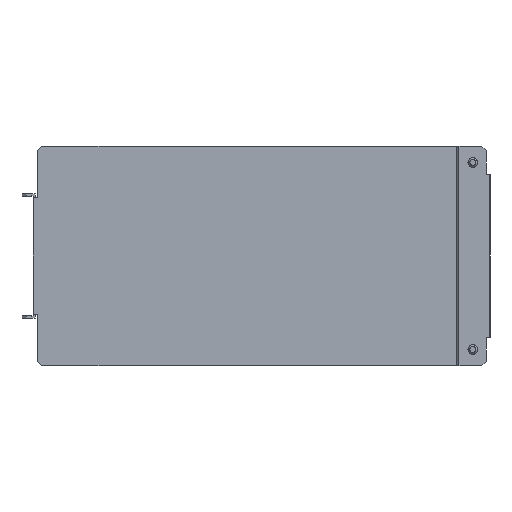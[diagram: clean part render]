
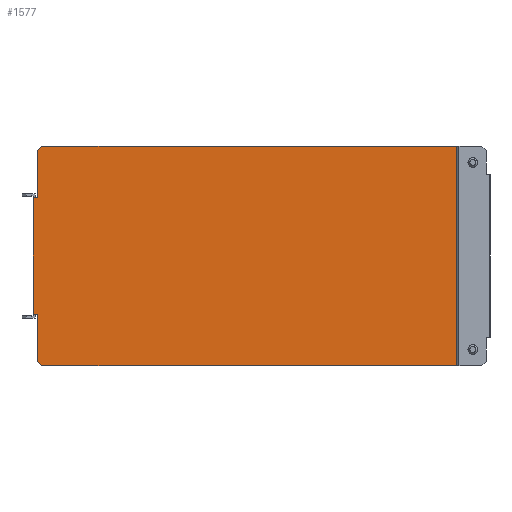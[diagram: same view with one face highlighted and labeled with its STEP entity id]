
A CAD part, front view. The second image highlights one B-rep face of the part: STEP entity #1577.
In plain terms, the highlighted planar face has unit normal (0, -1, 0).
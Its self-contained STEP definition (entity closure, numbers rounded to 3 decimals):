
#5 = CARTESIAN_POINT ( 'NONE',  ( -20.511, 1.5, -73.5 ) ) ;
#66 = CARTESIAN_POINT ( 'NONE',  ( -300.5, 1.5, 73.5 ) ) ;
#154 = DIRECTION ( 'NONE',  ( 1., 0., 0. ) ) ;
#162 = VERTEX_POINT ( 'NONE', #1483 ) ;
#177 = ORIENTED_EDGE ( 'NONE', *, *, #1281, .T. ) ;
#201 = EDGE_CURVE ( 'NONE', #2790, #1537, #1585, .T. ) ;
#216 = ORIENTED_EDGE ( 'NONE', *, *, #1597, .T. ) ;
#222 = ORIENTED_EDGE ( 'NONE', *, *, #2566, .F. ) ;
#227 = CARTESIAN_POINT ( 'NONE',  ( 0., 1.5, 73.5 ) ) ;
#268 = ORIENTED_EDGE ( 'NONE', *, *, #417, .T. ) ;
#319 = LINE ( 'NONE', #2994, #3381 ) ;
#403 = VECTOR ( 'NONE', #2015, 1000. ) ;
#417 = EDGE_CURVE ( 'NONE', #637, #3203, #1031, .T. ) ;
#517 = CARTESIAN_POINT ( 'NONE',  ( 0., 1.5, 0. ) ) ;
#595 = DIRECTION ( 'NONE',  ( 0., 0., 1. ) ) ;
#606 = DIRECTION ( 'NONE',  ( 0., 0., 1. ) ) ;
#637 = VERTEX_POINT ( 'NONE', #2460 ) ;
#662 = DIRECTION ( 'NONE',  ( 0.707, 0., -0.707 ) ) ;
#716 = VECTOR ( 'NONE', #3970, 1000. ) ;
#735 = CARTESIAN_POINT ( 'NONE',  ( -300.5, 1.5, -39. ) ) ;
#812 = CARTESIAN_POINT ( 'NONE',  ( -300.5, 1.5, 39. ) ) ;
#930 = ORIENTED_EDGE ( 'NONE', *, *, #3087, .T. ) ;
#1011 = LINE ( 'NONE', #2316, #1542 ) ;
#1031 = LINE ( 'NONE', #2337, #403 ) ;
#1138 = LINE ( 'NONE', #1824, #3621 ) ;
#1263 = LINE ( 'NONE', #3516, #3713 ) ;
#1281 = EDGE_CURVE ( 'NONE', #2433, #1385, #2294, .T. ) ;
#1290 = CARTESIAN_POINT ( 'NONE',  ( -303.3, 1.5, 39. ) ) ;
#1294 = CARTESIAN_POINT ( 'NONE',  ( -297.5, 1.5, -73.5 ) ) ;
#1334 = CARTESIAN_POINT ( 'NONE',  ( -20.511, 1.5, 0. ) ) ;
#1341 = ORIENTED_EDGE ( 'NONE', *, *, #2614, .F. ) ;
#1360 = VERTEX_POINT ( 'NONE', #2874 ) ;
#1363 = EDGE_CURVE ( 'NONE', #2988, #162, #4162, .T. ) ;
#1366 = DIRECTION ( 'NONE',  ( 0., 0., -1. ) ) ;
#1385 = VERTEX_POINT ( 'NONE', #1294 ) ;
#1483 = CARTESIAN_POINT ( 'NONE',  ( -20.511, 1.5, 73.5 ) ) ;
#1494 = EDGE_CURVE ( 'NONE', #1385, #2931, #3002, .T. ) ;
#1525 = CARTESIAN_POINT ( 'NONE',  ( 0., 1.5, -39. ) ) ;
#1529 = VERTEX_POINT ( 'NONE', #735 ) ;
#1537 = VERTEX_POINT ( 'NONE', #2045 ) ;
#1542 = VECTOR ( 'NONE', #2930, 1000. ) ;
#1577 = ADVANCED_FACE ( 'NONE', ( #1841 ), #3717, .T. ) ;
#1582 = CARTESIAN_POINT ( 'NONE',  ( -20.925, 1.5, -73.5 ) ) ;
#1585 = LINE ( 'NONE', #1858, #3237 ) ;
#1597 = EDGE_CURVE ( 'NONE', #4084, #1529, #1138, .T. ) ;
#1607 = VECTOR ( 'NONE', #1949, 1000. ) ;
#1676 = CARTESIAN_POINT ( 'NONE',  ( -300.5, 1.5, -73.5 ) ) ;
#1694 = CARTESIAN_POINT ( 'NONE',  ( -300.8, 1.5, 39. ) ) ;
#1708 = ORIENTED_EDGE ( 'NONE', *, *, #2335, .T. ) ;
#1710 = CARTESIAN_POINT ( 'NONE',  ( -300.8, 1.5, 39. ) ) ;
#1724 = VECTOR ( 'NONE', #1765, 1000. ) ;
#1765 = DIRECTION ( 'NONE',  ( 1., 0., 0. ) ) ;
#1824 = CARTESIAN_POINT ( 'NONE',  ( -300.8, 1.5, -39. ) ) ;
#1839 = VERTEX_POINT ( 'NONE', #1694 ) ;
#1841 = FACE_OUTER_BOUND ( 'NONE', #2468, .T. ) ;
#1853 = CARTESIAN_POINT ( 'NONE',  ( -185.5, 1.5, 185.5 ) ) ;
#1858 = CARTESIAN_POINT ( 'NONE',  ( 0., 1.5, 73.5 ) ) ;
#1875 = LINE ( 'NONE', #227, #1607 ) ;
#1949 = DIRECTION ( 'NONE',  ( 1., 0., 0. ) ) ;
#1975 = DIRECTION ( 'NONE',  ( 1., 0., 0. ) ) ;
#2015 = DIRECTION ( 'NONE',  ( 0., 0., -1. ) ) ;
#2016 = VECTOR ( 'NONE', #2573, 1000. ) ;
#2045 = CARTESIAN_POINT ( 'NONE',  ( -297.5, 1.5, 73.5 ) ) ;
#2154 = ORIENTED_EDGE ( 'NONE', *, *, #2362, .F. ) ;
#2200 = ORIENTED_EDGE ( 'NONE', *, *, #2590, .T. ) ;
#2294 = LINE ( 'NONE', #3584, #3930 ) ;
#2316 = CARTESIAN_POINT ( 'NONE',  ( -300.8, 1.5, 39. ) ) ;
#2335 = EDGE_CURVE ( 'NONE', #1537, #637, #3472, .T. ) ;
#2337 = CARTESIAN_POINT ( 'NONE',  ( -300.5, 1.5, 73.5 ) ) ;
#2362 = EDGE_CURVE ( 'NONE', #2790, #162, #1875, .T. ) ;
#2412 = AXIS2_PLACEMENT_3D ( 'NONE', #517, #3404, #2806 ) ;
#2432 = ORIENTED_EDGE ( 'NONE', *, *, #2954, .F. ) ;
#2433 = VERTEX_POINT ( 'NONE', #3489 ) ;
#2460 = CARTESIAN_POINT ( 'NONE',  ( -300.5, 1.5, 70.5 ) ) ;
#2468 = EDGE_LOOP ( 'NONE', ( #2551, #1708, #268, #1341, #930, #2432, #222, #216, #2200, #177, #3324, #3424, #3110, #2154 ) ) ;
#2528 = LINE ( 'NONE', #1525, #2016 ) ;
#2545 = DIRECTION ( 'NONE',  ( -1., 0., 0. ) ) ;
#2551 = ORIENTED_EDGE ( 'NONE', *, *, #201, .T. ) ;
#2566 = EDGE_CURVE ( 'NONE', #4084, #1360, #2528, .T. ) ;
#2573 = DIRECTION ( 'NONE',  ( -1., 0., 0. ) ) ;
#2590 = EDGE_CURVE ( 'NONE', #1529, #2433, #3567, .T. ) ;
#2614 = EDGE_CURVE ( 'NONE', #1839, #3203, #2672, .T. ) ;
#2672 = LINE ( 'NONE', #1710, #716 ) ;
#2695 = VECTOR ( 'NONE', #606, 1000. ) ;
#2740 = DIRECTION ( 'NONE',  ( -0.707, 0., -0.707 ) ) ;
#2790 = VERTEX_POINT ( 'NONE', #4046 ) ;
#2806 = DIRECTION ( 'NONE',  ( -1., 0., 0. ) ) ;
#2834 = VECTOR ( 'NONE', #1366, 1000. ) ;
#2874 = CARTESIAN_POINT ( 'NONE',  ( -303.3, 1.5, -39. ) ) ;
#2930 = DIRECTION ( 'NONE',  ( -1., 0., 0. ) ) ;
#2931 = VERTEX_POINT ( 'NONE', #1582 ) ;
#2954 = EDGE_CURVE ( 'NONE', #1360, #3391, #1263, .T. ) ;
#2988 = VERTEX_POINT ( 'NONE', #5 ) ;
#2994 = CARTESIAN_POINT ( 'NONE',  ( -20.925, 1.5, -73.5 ) ) ;
#3002 = LINE ( 'NONE', #1676, #1724 ) ;
#3005 = EDGE_CURVE ( 'NONE', #2931, #2988, #319, .T. ) ;
#3087 = EDGE_CURVE ( 'NONE', #1839, #3391, #1011, .T. ) ;
#3110 = ORIENTED_EDGE ( 'NONE', *, *, #1363, .T. ) ;
#3203 = VERTEX_POINT ( 'NONE', #812 ) ;
#3237 = VECTOR ( 'NONE', #2545, 1000. ) ;
#3324 = ORIENTED_EDGE ( 'NONE', *, *, #1494, .T. ) ;
#3381 = VECTOR ( 'NONE', #1975, 1000. ) ;
#3391 = VERTEX_POINT ( 'NONE', #1290 ) ;
#3404 = DIRECTION ( 'NONE',  ( 0., -1., 0. ) ) ;
#3424 = ORIENTED_EDGE ( 'NONE', *, *, #3005, .T. ) ;
#3472 = LINE ( 'NONE', #1853, #3845 ) ;
#3489 = CARTESIAN_POINT ( 'NONE',  ( -300.5, 1.5, -70.5 ) ) ;
#3516 = CARTESIAN_POINT ( 'NONE',  ( -303.3, 1.5, 0. ) ) ;
#3567 = LINE ( 'NONE', #66, #2834 ) ;
#3584 = CARTESIAN_POINT ( 'NONE',  ( -185.5, 1.5, -185.5 ) ) ;
#3621 = VECTOR ( 'NONE', #154, 1000. ) ;
#3713 = VECTOR ( 'NONE', #595, 1000. ) ;
#3717 = PLANE ( 'NONE',  #2412 ) ;
#3845 = VECTOR ( 'NONE', #2740, 1000. ) ;
#3930 = VECTOR ( 'NONE', #662, 1000. ) ;
#3970 = DIRECTION ( 'NONE',  ( 1., 0., 0. ) ) ;
#4020 = CARTESIAN_POINT ( 'NONE',  ( -300.8, 1.5, -39. ) ) ;
#4046 = CARTESIAN_POINT ( 'NONE',  ( -20.925, 1.5, 73.5 ) ) ;
#4084 = VERTEX_POINT ( 'NONE', #4020 ) ;
#4162 = LINE ( 'NONE', #1334, #2695 ) ;
